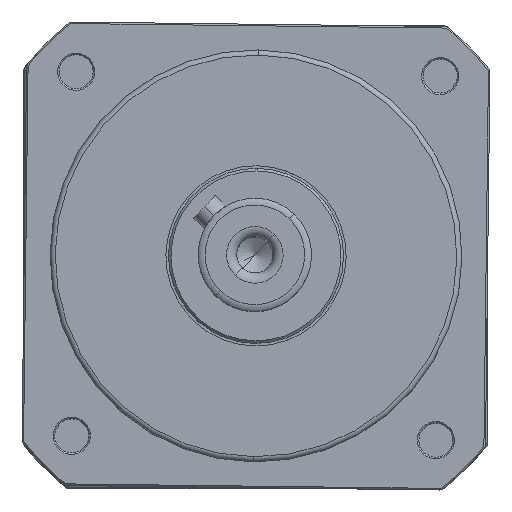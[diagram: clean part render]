
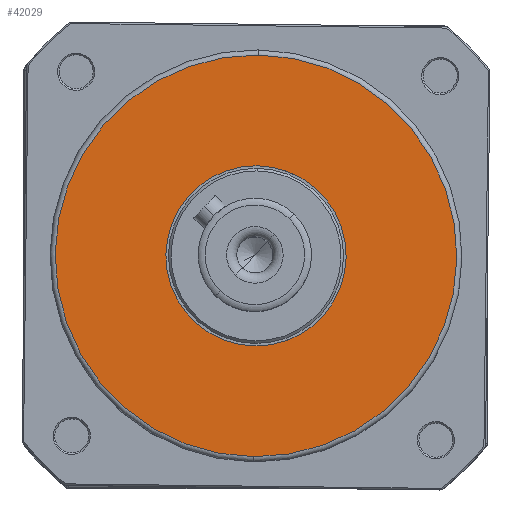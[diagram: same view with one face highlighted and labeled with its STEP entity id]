
A CAD part, top view. The second image highlights one B-rep face of the part: STEP entity #42029.
In plain terms, the highlighted planar face has unit normal (0, 0, 1) as drawn and (0, 0, -1) by its records, which use the part's own axes.
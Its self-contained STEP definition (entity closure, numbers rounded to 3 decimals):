
#773 = CIRCLE ( 'NONE', #63588, 17.5 ) ;
#1968 = AXIS2_PLACEMENT_3D ( 'NONE', #2110, #18162, #55616 ) ;
#2110 = CARTESIAN_POINT ( 'NONE',  ( 0., 0., -40. ) ) ;
#4446 = VERTEX_POINT ( 'NONE', #9185 ) ;
#5134 = DIRECTION ( 'NONE',  ( 0., 0., -1. ) ) ;
#7439 = DIRECTION ( 'NONE',  ( 0., 0., -1. ) ) ;
#8127 = CARTESIAN_POINT ( 'NONE',  ( 0., 0., -40. ) ) ;
#8791 = DIRECTION ( 'NONE',  ( 0., 0., -1. ) ) ;
#9185 = CARTESIAN_POINT ( 'NONE',  ( 39., 0., -40. ) ) ;
#13414 = CARTESIAN_POINT ( 'NONE',  ( 0., 0., -40. ) ) ;
#14583 = DIRECTION ( 'NONE',  ( 1., 0., 0. ) ) ;
#15001 = EDGE_CURVE ( 'NONE', #24327, #4446, #29703, .T. ) ;
#15255 = FACE_BOUND ( 'NONE', #33131, .T. ) ;
#16818 = AXIS2_PLACEMENT_3D ( 'NONE', #13414, #8791, #50851 ) ;
#18162 = DIRECTION ( 'NONE',  ( 0., 0., -1. ) ) ;
#18641 = FACE_OUTER_BOUND ( 'NONE', #68219, .T. ) ;
#20774 = CIRCLE ( 'NONE', #16818, 39. ) ;
#22741 = EDGE_CURVE ( 'NONE', #44918, #63838, #773, .T. ) ;
#24123 = CARTESIAN_POINT ( 'NONE',  ( -39., 0., -40. ) ) ;
#24327 = VERTEX_POINT ( 'NONE', #24123 ) ;
#26357 = DIRECTION ( 'NONE',  ( 1., 0., 0. ) ) ;
#27008 = EDGE_CURVE ( 'NONE', #4446, #24327, #20774, .T. ) ;
#29703 = CIRCLE ( 'NONE', #1968, 39. ) ;
#33131 = EDGE_LOOP ( 'NONE', ( #35296, #48100 ) ) ;
#34688 = CARTESIAN_POINT ( 'NONE',  ( -17.5, 0., -40. ) ) ;
#35296 = ORIENTED_EDGE ( 'NONE', *, *, #22741, .F. ) ;
#41080 = CARTESIAN_POINT ( 'NONE',  ( 0., 0., -40. ) ) ;
#42029 = ADVANCED_FACE ( 'NONE', ( #18641, #15255 ), #57641, .F. ) ;
#44703 = CIRCLE ( 'NONE', #51424, 17.5 ) ;
#44918 = VERTEX_POINT ( 'NONE', #63213 ) ;
#46682 = DIRECTION ( 'NONE',  ( 0., 0., 1. ) ) ;
#48100 = ORIENTED_EDGE ( 'NONE', *, *, #59387, .F. ) ;
#50851 = DIRECTION ( 'NONE',  ( 1., 0., 0. ) ) ;
#51424 = AXIS2_PLACEMENT_3D ( 'NONE', #8127, #7439, #61357 ) ;
#55616 = DIRECTION ( 'NONE',  ( 1., 0., 0. ) ) ;
#57641 = PLANE ( 'NONE',  #68477 ) ;
#58382 = CARTESIAN_POINT ( 'NONE',  ( 0., 0., -40. ) ) ;
#59387 = EDGE_CURVE ( 'NONE', #63838, #44918, #44703, .T. ) ;
#60771 = ORIENTED_EDGE ( 'NONE', *, *, #15001, .T. ) ;
#61200 = ORIENTED_EDGE ( 'NONE', *, *, #27008, .T. ) ;
#61357 = DIRECTION ( 'NONE',  ( 1., 0., 0. ) ) ;
#63213 = CARTESIAN_POINT ( 'NONE',  ( 17.5, 0., -40. ) ) ;
#63588 = AXIS2_PLACEMENT_3D ( 'NONE', #58382, #5134, #26357 ) ;
#63838 = VERTEX_POINT ( 'NONE', #34688 ) ;
#68219 = EDGE_LOOP ( 'NONE', ( #61200, #60771 ) ) ;
#68477 = AXIS2_PLACEMENT_3D ( 'NONE', #41080, #46682, #14583 ) ;
